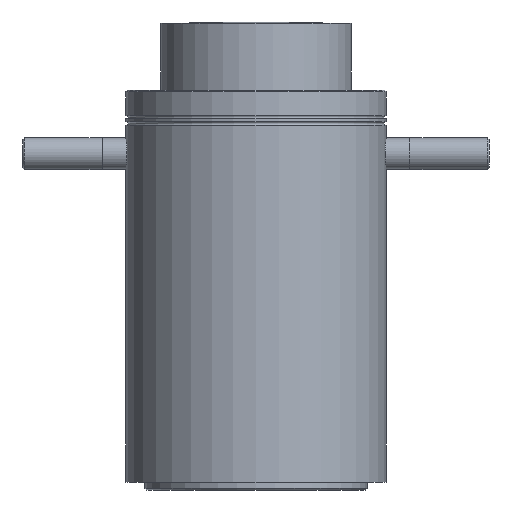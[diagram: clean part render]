
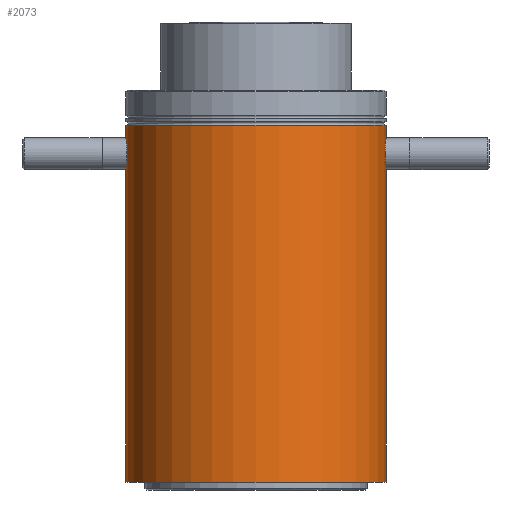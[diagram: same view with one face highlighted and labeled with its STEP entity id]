
A CAD part, left-side view. The second image highlights one B-rep face of the part: STEP entity #2073.
In plain terms, the highlighted cylindrical face has radius 82 mm (diameter 164 mm), a full revolution.
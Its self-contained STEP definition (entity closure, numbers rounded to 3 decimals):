
#24=B_SPLINE_CURVE_WITH_KNOTS('',3,(#2993,#2994,#2995,#2996,#2997,#2998,
#2999,#3000,#3001,#3002,#3003,#3004,#3005,#3006,#3007,#3008,#3009,#3010,
#3011),.UNSPECIFIED.,.T.,.F.,(1,1,1,1,1,1,1,1,1,1,1,1,1,1,1,1,1,1,1,1,1,
1,1),(-0.012,-0.008,-0.004,0.,
0.004,0.008,0.012,0.016,
0.02,0.023,0.027,0.031,
0.035,0.039,0.043,0.047,
0.051,0.055,0.059,0.063,
0.066,0.07,0.074),.UNSPECIFIED.);
#25=B_SPLINE_CURVE_WITH_KNOTS('',3,(#3013,#3014,#3015,#3016,#3017,#3018,
#3019,#3020,#3021,#3022,#3023,#3024,#3025,#3026,#3027,#3028,#3029,#3030,
#3031),.UNSPECIFIED.,.T.,.F.,(1,1,1,1,1,1,1,1,1,1,1,1,1,1,1,1,1,1,1,1,1,
1,1),(-0.012,-0.008,-0.004,0.,
0.004,0.008,0.012,0.016,
0.02,0.023,0.027,0.031,
0.035,0.039,0.043,0.047,
0.051,0.055,0.059,0.063,
0.066,0.07,0.074),.UNSPECIFIED.);
#48=CYLINDRICAL_SURFACE('',#2204,82.);
#87=CIRCLE('',#2205,82.);
#88=CIRCLE('',#2206,82.);
#89=CIRCLE('',#2207,82.);
#90=CIRCLE('',#2208,82.);
#385=ORIENTED_EDGE('',*,*,#592,.F.);
#386=ORIENTED_EDGE('',*,*,#593,.F.);
#387=ORIENTED_EDGE('',*,*,#594,.F.);
#388=ORIENTED_EDGE('',*,*,#587,.T.);
#389=ORIENTED_EDGE('',*,*,#450,.T.);
#390=ORIENTED_EDGE('',*,*,#589,.T.);
#391=ORIENTED_EDGE('',*,*,#595,.F.);
#392=ORIENTED_EDGE('',*,*,#590,.F.);
#393=ORIENTED_EDGE('',*,*,#475,.F.);
#394=ORIENTED_EDGE('',*,*,#586,.F.);
#395=ORIENTED_EDGE('',*,*,#596,.T.);
#396=ORIENTED_EDGE('',*,*,#597,.T.);
#450=EDGE_CURVE('',#619,#620,#747,.T.);
#475=EDGE_CURVE('',#629,#626,#768,.T.);
#586=EDGE_CURVE('',#717,#629,#853,.T.);
#587=EDGE_CURVE('',#718,#619,#854,.T.);
#589=EDGE_CURVE('',#620,#719,#856,.T.);
#590=EDGE_CURVE('',#626,#720,#857,.T.);
#592=EDGE_CURVE('',#721,#721,#87,.F.);
#593=EDGE_CURVE('',#722,#722,#88,.T.);
#594=EDGE_CURVE('',#718,#717,#89,.F.);
#595=EDGE_CURVE('',#720,#719,#90,.F.);
#596=EDGE_CURVE('',#723,#723,#24,.T.);
#597=EDGE_CURVE('',#724,#724,#25,.T.);
#619=VERTEX_POINT('',#2677);
#620=VERTEX_POINT('',#2678);
#626=VERTEX_POINT('',#2692);
#629=VERTEX_POINT('',#2702);
#717=VERTEX_POINT('',#2976);
#718=VERTEX_POINT('',#2978);
#719=VERTEX_POINT('',#2982);
#720=VERTEX_POINT('',#2984);
#721=VERTEX_POINT('',#2988);
#722=VERTEX_POINT('',#2990);
#723=VERTEX_POINT('',#3012);
#724=VERTEX_POINT('',#3032);
#747=LINE('',#2676,#859);
#768=LINE('',#2727,#880);
#853=LINE('',#2975,#965);
#854=LINE('',#2977,#966);
#856=LINE('',#2981,#968);
#857=LINE('',#2983,#969);
#859=VECTOR('',#2262,1000.);
#880=VECTOR('',#2303,1000.);
#965=VECTOR('',#2558,1000.);
#966=VECTOR('',#2559,1000.);
#968=VECTOR('',#2563,1000.);
#969=VECTOR('',#2564,1000.);
#1063=EDGE_LOOP('',(#385));
#1064=EDGE_LOOP('',(#386));
#1065=EDGE_LOOP('',(#387,#388,#389,#390,#391,#392,#393,#394));
#1066=EDGE_LOOP('',(#395));
#1067=EDGE_LOOP('',(#396));
#1211=FACE_BOUND('',#1063,.T.);
#1212=FACE_BOUND('',#1064,.T.);
#1213=FACE_BOUND('',#1065,.T.);
#1214=FACE_BOUND('',#1066,.T.);
#1215=FACE_BOUND('',#1067,.T.);
#2073=ADVANCED_FACE('',(#1211,#1212,#1213,#1214,#1215),#48,.T.);
#2204=AXIS2_PLACEMENT_3D('',#2986,#2566,#2567);
#2205=AXIS2_PLACEMENT_3D('',#2987,#2568,#2569);
#2206=AXIS2_PLACEMENT_3D('',#2989,#2570,#2571);
#2207=AXIS2_PLACEMENT_3D('',#2991,#2572,#2573);
#2208=AXIS2_PLACEMENT_3D('',#2992,#2574,#2575);
#2262=DIRECTION('',(0.,0.,1.));
#2303=DIRECTION('',(0.,0.,1.));
#2558=DIRECTION('',(0.,0.,1.));
#2559=DIRECTION('',(0.,0.,1.));
#2563=DIRECTION('',(0.,0.,1.));
#2564=DIRECTION('',(0.,0.,1.));
#2566=DIRECTION('',(0.,0.,1.));
#2567=DIRECTION('',(1.,0.,0.));
#2568=DIRECTION('',(0.,0.,-1.));
#2569=DIRECTION('',(-1.,0.,0.));
#2570=DIRECTION('',(0.,0.,-1.));
#2571=DIRECTION('',(-1.,0.,0.));
#2572=DIRECTION('',(0.,0.,-1.));
#2573=DIRECTION('',(-1.,0.,0.));
#2574=DIRECTION('',(0.,0.,1.));
#2575=DIRECTION('',(1.,0.,0.));
#2676=CARTESIAN_POINT('',(80.5,-15.612,23.));
#2677=CARTESIAN_POINT('',(80.5,-15.612,-46.));
#2678=CARTESIAN_POINT('',(80.5,-15.612,-14.));
#2692=CARTESIAN_POINT('',(80.5,15.612,-14.));
#2702=CARTESIAN_POINT('',(80.5,15.612,-46.));
#2727=CARTESIAN_POINT('',(80.5,15.612,23.));
#2975=CARTESIAN_POINT('',(80.5,15.612,23.));
#2976=CARTESIAN_POINT('',(80.5,15.612,-46.1));
#2977=CARTESIAN_POINT('',(80.5,-15.612,23.));
#2978=CARTESIAN_POINT('',(80.5,-15.612,-46.1));
#2981=CARTESIAN_POINT('',(80.5,-15.612,23.));
#2982=CARTESIAN_POINT('',(80.5,-15.612,-13.9));
#2983=CARTESIAN_POINT('',(80.5,15.612,23.));
#2984=CARTESIAN_POINT('',(80.5,15.612,-13.9));
#2986=CARTESIAN_POINT('',(0.,0.,23.));
#2987=CARTESIAN_POINT('',(0.,0.,80.));
#2988=CARTESIAN_POINT('',(-82.,0.,80.));
#2989=CARTESIAN_POINT('',(0.,0.,-145.));
#2990=CARTESIAN_POINT('',(-82.,0.,-145.));
#2991=CARTESIAN_POINT('',(0.,0.,-46.1));
#2992=CARTESIAN_POINT('',(0.,0.,-13.9));
#2993=CARTESIAN_POINT('',(9.473,-81.455,65.945));
#2994=CARTESIAN_POINT('',(10.263,-81.354,61.997));
#2995=CARTESIAN_POINT('',(9.477,-81.455,58.068));
#2996=CARTESIAN_POINT('',(7.253,-81.695,54.744));
#2997=CARTESIAN_POINT('',(3.932,-81.934,52.523));
#2998=CARTESIAN_POINT('',(0.006,-82.033,51.739));
#2999=CARTESIAN_POINT('',(-3.923,-81.934,52.519));
#3000=CARTESIAN_POINT('',(-7.252,-81.695,54.742));
#3001=CARTESIAN_POINT('',(-9.477,-81.455,58.069));
#3002=CARTESIAN_POINT('',(-10.261,-81.355,61.996));
#3003=CARTESIAN_POINT('',(-9.48,-81.454,65.923));
#3004=CARTESIAN_POINT('',(-7.261,-81.694,69.247));
#3005=CARTESIAN_POINT('',(-3.941,-81.933,71.473));
#3006=CARTESIAN_POINT('',(-0.009,-82.033,72.261));
#3007=CARTESIAN_POINT('',(3.924,-81.934,71.481));
#3008=CARTESIAN_POINT('',(7.249,-81.695,69.258));
#3009=CARTESIAN_POINT('',(9.473,-81.455,65.945));
#3010=CARTESIAN_POINT('',(10.263,-81.354,61.997));
#3011=CARTESIAN_POINT('',(9.477,-81.455,58.068));
#3012=CARTESIAN_POINT('',(10.,-81.388,62.));
#3013=CARTESIAN_POINT('',(-9.473,81.455,65.945));
#3014=CARTESIAN_POINT('',(-10.263,81.354,61.997));
#3015=CARTESIAN_POINT('',(-9.477,81.455,58.068));
#3016=CARTESIAN_POINT('',(-7.253,81.695,54.744));
#3017=CARTESIAN_POINT('',(-3.932,81.934,52.523));
#3018=CARTESIAN_POINT('',(-0.006,82.033,51.739));
#3019=CARTESIAN_POINT('',(3.923,81.934,52.519));
#3020=CARTESIAN_POINT('',(7.252,81.695,54.742));
#3021=CARTESIAN_POINT('',(9.477,81.455,58.069));
#3022=CARTESIAN_POINT('',(10.261,81.355,61.996));
#3023=CARTESIAN_POINT('',(9.48,81.454,65.923));
#3024=CARTESIAN_POINT('',(7.261,81.694,69.247));
#3025=CARTESIAN_POINT('',(3.941,81.933,71.473));
#3026=CARTESIAN_POINT('',(0.009,82.033,72.261));
#3027=CARTESIAN_POINT('',(-3.924,81.934,71.481));
#3028=CARTESIAN_POINT('',(-7.249,81.695,69.258));
#3029=CARTESIAN_POINT('',(-9.473,81.455,65.945));
#3030=CARTESIAN_POINT('',(-10.263,81.354,61.997));
#3031=CARTESIAN_POINT('',(-9.477,81.455,58.068));
#3032=CARTESIAN_POINT('',(-10.,81.388,62.));
